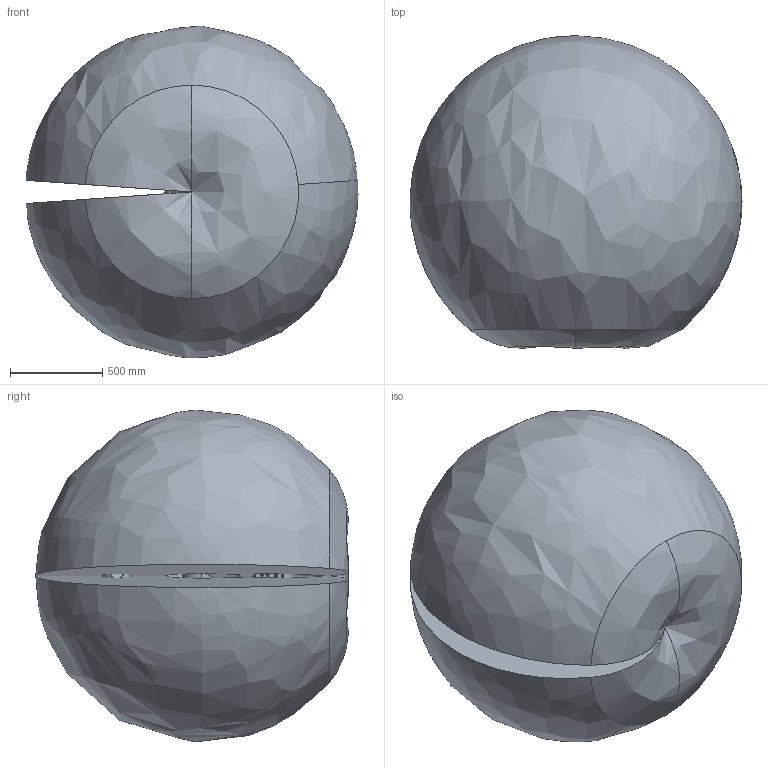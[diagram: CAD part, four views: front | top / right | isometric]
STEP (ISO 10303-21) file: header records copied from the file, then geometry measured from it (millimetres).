
FILE_DESCRIPTION (( 'STEP AP203' ), '1' );
FILE_NAME ('阹陎暱R090-10-E 俋窒耀倰.STEP', '2020-11-14T03:14:54', ( 'Topstarltd' ), ( 'Topstarltd.Com' ), 'SwSTEP 2.0', 'SolidWorks 2016', '' );
FILE_SCHEMA (( 'CONFIG_CONTROL_DESIGN' ));
Length unit declared in the file: millimetre
Products named in the file (9): 阹陎暱R090-10-E-07; 阹陎暱R090-10-E-08; 阹陎暱R090-10-E 俋窒耀倰; 阹陎暱R090-10-E-01; 阹陎暱R090-10-E-02; 阹陎暱R090-10-E-03; 阹陎暱R090-10-E-04; 阹陎暱R090-10-E-05; 阹陎暱R090-10-E-06
Assembly tree (8 placements, depth 2):
  阹陎暱R090-10-E 俋窒耀倰
    阹陎暱R090-10-E-01
    阹陎暱R090-10-E-02
    阹陎暱R090-10-E-03
    阹陎暱R090-10-E-04
    阹陎暱R090-10-E-05
    阹陎暱R090-10-E-06
    阹陎暱R090-10-E-07
    阹陎暱R090-10-E-08
Bounding box: 1797.72 x 1692.38 x 1796.94 mm (x, y, z)
Volume: 2875739395.8 mm3; surface area: 15095931 mm2
Topology: 1 solids, 200 shells, 2996 faces, 8593 edges, 5799 vertices
Faces by surface type: cylinder 1095, plane 997, bspline 735, cone 169
Entity records: 171733 total; most frequent: CARTESIAN_POINT 98709, ORIENTED_EDGE 14795, DIRECTION 13762, EDGE_CURVE 8517, VERTEX_POINT 5799, AXIS2_PLACEMENT_3D 5167, EDGE_LOOP 3448, VECTOR 3428
